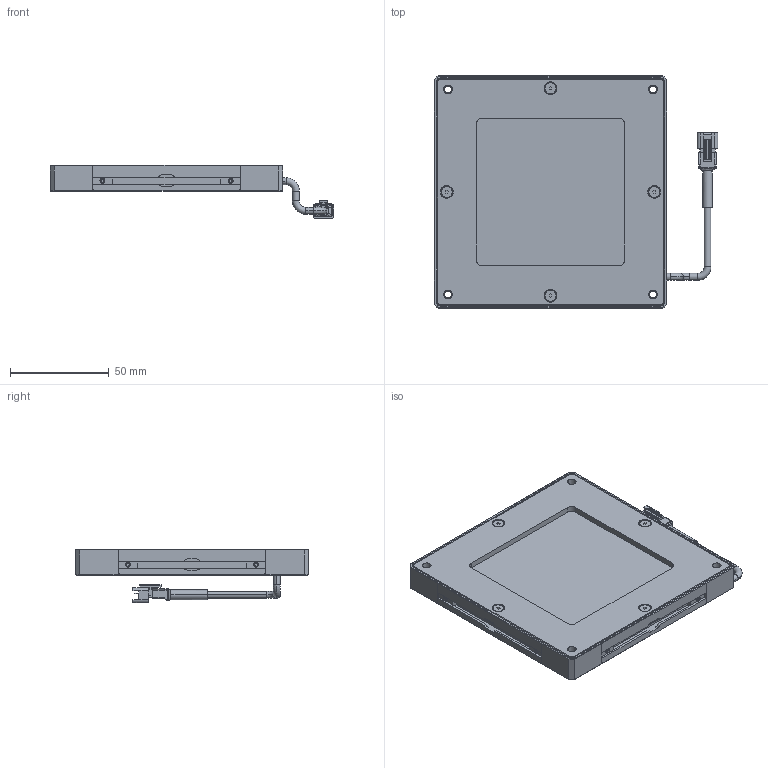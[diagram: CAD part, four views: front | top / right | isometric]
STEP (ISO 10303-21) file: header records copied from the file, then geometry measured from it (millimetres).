
FILE_DESCRIPTION (( 'STEP AP203' ), '1' );
FILE_NAME ('UA21742.STEP', '2020-12-07T06:30:42', ( 'CCS' ), ( 'シーシーエス株式会社' ), 'SwSTEP 2.0', 'SolidWorks 2017', '' );
FILE_SCHEMA (( 'CONFIG_CONTROL_DESIGN' ));
Length unit declared in the file: millimetre
Products named in the file (1): UA21742
Bounding box: 143.85 x 118 x 27.1 mm (x, y, z)
Surface area: 46362.5 mm2 (no closed solid volume)
Topology: 0 solids, 25 shells, 488 faces, 1581 edges, 1106 vertices
Faces by surface type: plane 310, cylinder 94, bspline 40, cone 30, torus 14
Entity records: 18757 total; most frequent: CARTESIAN_POINT 5196, DIRECTION 2697, ORIENTED_EDGE 2530, EDGE_CURVE 1581, LINE 1177, VECTOR 1177, VERTEX_POINT 1106, AXIS2_PLACEMENT_3D 760
